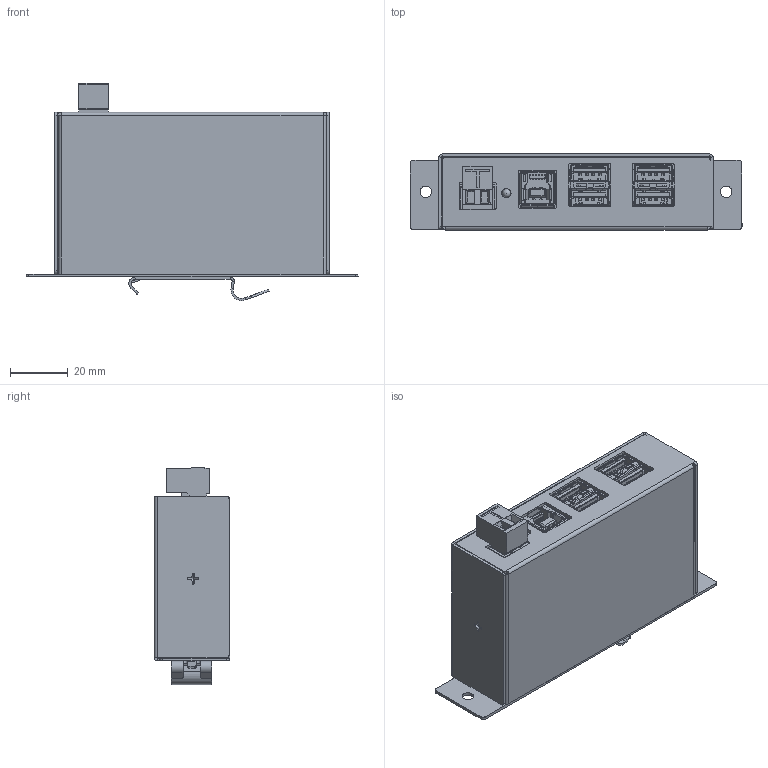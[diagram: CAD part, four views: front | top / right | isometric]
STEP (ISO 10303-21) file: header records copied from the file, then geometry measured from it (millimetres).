
FILE_DESCRIPTION(/* description */ (''),/* implementation_level */ '2;1');
FILE_NAME(/* name */ 'C:/Users/Leo/Desktop/USBG-4U3MLR2/USBG-4U3MLR2 v3.step',/* time_stamp */ '2021-04-26T12:23:43-04:00',/* author */ (''),/* organization */ (''),/* preprocessor_version */ 'ST-DEVELOPER v18.1',/* originating_system */ 'Autodesk Translation Framework v10.6.0.1341',/* authorisation */ '');
FILE_SCHEMA (('AUTOMOTIVE_DESIGN { 1 0 10303 214 3 1 1 }'));
Products named in the file (6): USBG-4U3MLR2; DINRCLP3X 14mmW v12; DINRCLP3X; M3X0.5 China 120ang METRIC 18-8 SS FLAT HEAD PHIL MACHINE SCREW v2 (1
); Connector green phoenix 2pines male 5.08 v6; Component86
Assembly tree (6 placements, depth 3):
  USBG-4U3MLR2
    DINRCLP3X 14mmW v12
      DINRCLP3X
      M3X0.5 China 120ang METRIC 18-8 SS FLAT HEAD PHIL MACHINE SCREW v2 (1
)  x2
    Connector green phoenix 2pines male 5.08 v6
    Component86
Bounding box: 115 x 26.25 x 75.26 mm (x, y, z)
Volume: 36877.4 mm3; surface area: 68657.3 mm2
Topology: 5 solids, 116 shells, 6166 faces, 17529 edges, 11329 vertices
Faces by surface type: plane 4565, cylinder 1348, bspline 182, cone 68, sphere 3
Full cylindrical faces by diameter (mm): 1.6 x2, 2.459 x4, 2.529 x6, 2.89 x1, 3 x3, 3.25 x1, 3.86 x2, 3.9 x2, 4 x2, 5.25 x5
Entity records: 208114 total; most frequent: CARTESIAN_POINT 46880, ORIENTED_EDGE 34782, DIRECTION 31761, EDGE_CURVE 17391, LINE 13955, VECTOR 13955, VERTEX_POINT 11249, AXIS2_PLACEMENT_3D 8903
